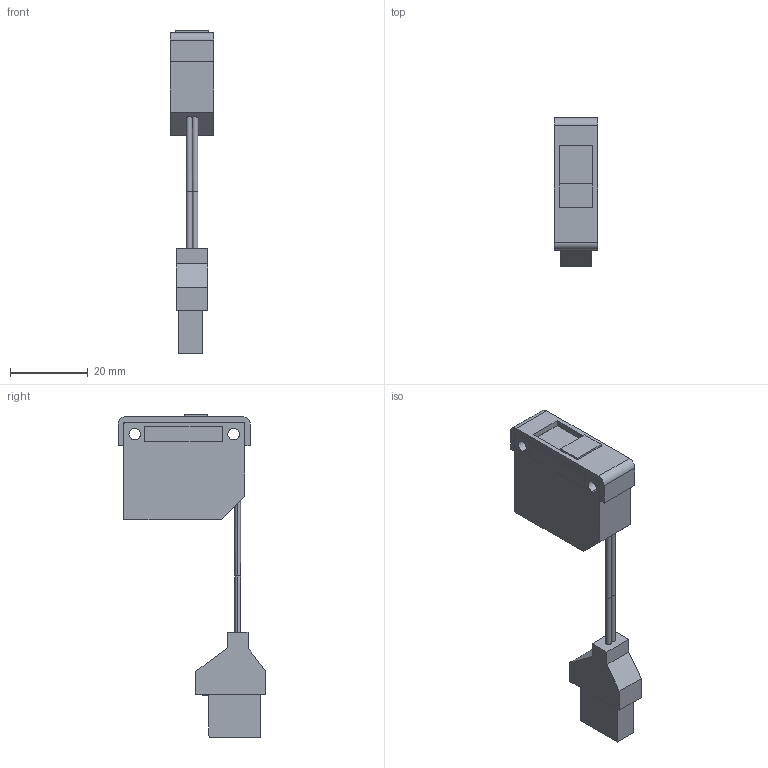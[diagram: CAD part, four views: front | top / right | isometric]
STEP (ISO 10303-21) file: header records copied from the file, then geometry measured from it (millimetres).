
FILE_DESCRIPTION (( 'STEP AP203' ), '1' );
FILE_NAME ('LS-H22.STEP', '2005-11-09T06:55:59', ( '' ), ( '' ), 'SwSTEP 2.0', 'SolidWorks 2004073', '' );
FILE_SCHEMA (( 'CONFIG_CONTROL_DESIGN' ));
Length unit declared in the file: millimetre
Products named in the file (1): LS-H22
Bounding box: 11.2 x 38 x 83 mm (x, y, z)
Volume: 10179.7 mm3; surface area: 7134.6 mm2
Topology: 4 solids, 4 shells, 141 faces, 361 edges, 240 vertices
Faces by surface type: plane 112, cylinder 29
Entity records: 4318 total; most frequent: CARTESIAN_POINT 761, ORIENTED_EDGE 722, DIRECTION 695, EDGE_CURVE 361, VECTOR 299, LINE 299, VERTEX_POINT 240, AXIS2_PLACEMENT_3D 198
